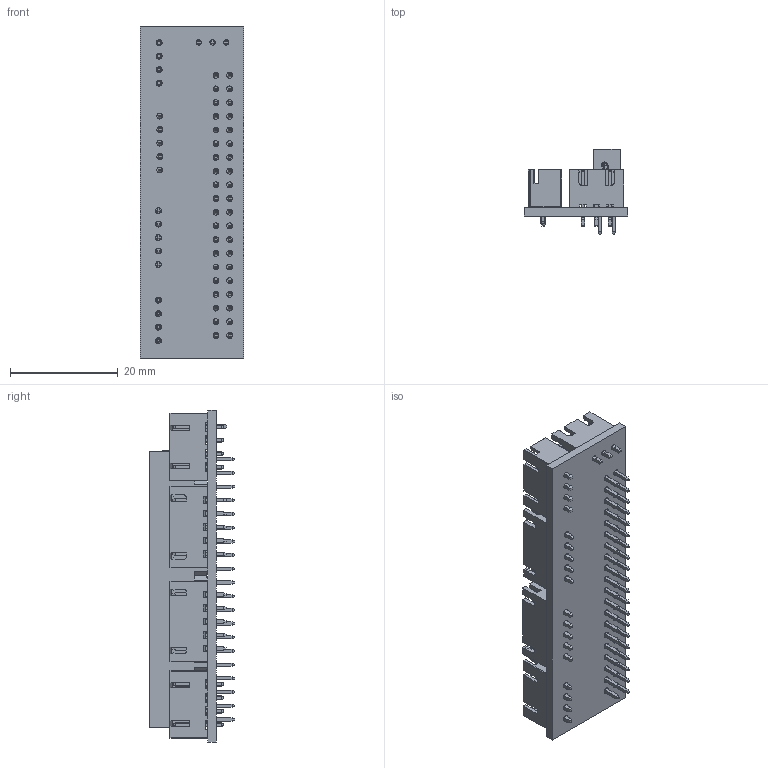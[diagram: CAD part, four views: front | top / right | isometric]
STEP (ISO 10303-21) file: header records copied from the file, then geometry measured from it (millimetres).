
FILE_DESCRIPTION(('Open CASCADE Model'),'2;1');
FILE_NAME('orange-pi-4-pro-custom-gpio-pcb.step','2026-11-14T14:32:02',( 'Author'),('Open CASCADE'),'Open CASCADE STEP processor 8.0', 'Open CASCADE 8.0','Unknown');
FILE_SCHEMA(('AP242_MANAGED_MODEL_BASED_3D_ENGINEERING_MIM_LF {1 0 10303 442 1 1 4 }' ));
Products named in the file (1): Orange Pi 4 Pro Custom GPIO PCB
Bounding box: 19.28 x 15.84 x 61.57 mm (x, y, z)
Volume: 5696.5 mm3; surface area: 9556.9 mm2
Topology: 7 solids, 7 shells, 2985 faces, 7870 edges, 5106 vertices
Faces by surface type: plane 2341, bspline 352, cylinder 292
Entity records: 207189 total; most frequent: CARTESIAN_POINT 54587, DIRECTION 26010, LINE 19917, VECTOR 19917, ORIENTED_EDGE 15740, PCURVE 15740, DEFINITIONAL_REPRESENTATION 15740, EDGE_CURVE 7870
